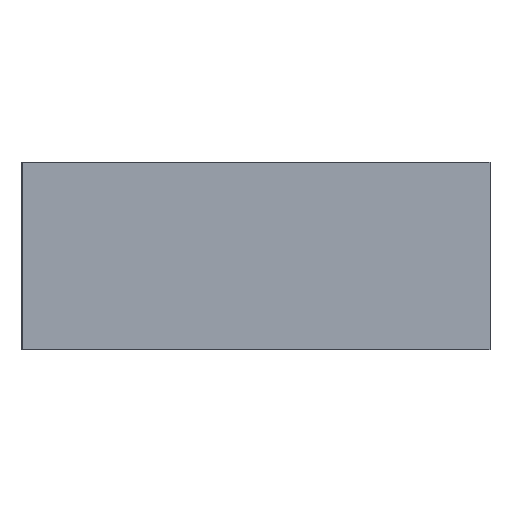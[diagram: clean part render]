
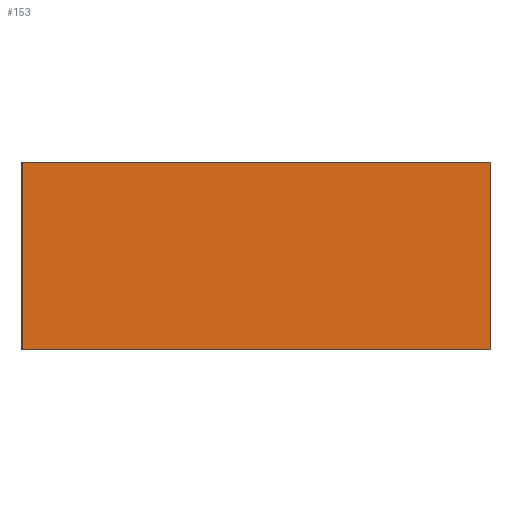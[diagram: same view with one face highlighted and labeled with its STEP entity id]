
A CAD part, left-side view. The second image highlights one B-rep face of the part: STEP entity #153.
In plain terms, the highlighted planar face has unit normal (-1, 0, 0).
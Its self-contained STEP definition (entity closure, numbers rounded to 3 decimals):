
#1 = ORIENTED_EDGE ( 'NONE', *, *, #227, .F. ) ;
#15 = VECTOR ( 'NONE', #233, 1000. ) ;
#39 = VERTEX_POINT ( 'NONE', #129 ) ;
#49 = CARTESIAN_POINT ( 'NONE',  ( -50., -10., 8. ) ) ;
#50 = VECTOR ( 'NONE', #360, 1000. ) ;
#54 = DIRECTION ( 'NONE',  ( 0., -1., 0. ) ) ;
#81 = VECTOR ( 'NONE', #54, 1000. ) ;
#104 = DIRECTION ( 'NONE',  ( 0., 0., -1. ) ) ;
#105 = DIRECTION ( 'NONE',  ( 0., 0., -1. ) ) ;
#106 = VECTOR ( 'NONE', #104, 1000. ) ;
#116 = LINE ( 'NONE', #293, #50 ) ;
#123 = EDGE_LOOP ( 'NONE', ( #278, #338, #1, #373 ) ) ;
#129 = CARTESIAN_POINT ( 'NONE',  ( -50., -10., 0. ) ) ;
#145 = CARTESIAN_POINT ( 'NONE',  ( -50., 10., 0. ) ) ;
#152 = VERTEX_POINT ( 'NONE', #349 ) ;
#153 = ADVANCED_FACE ( 'NONE', ( #234 ), #173, .F. ) ;
#173 = PLANE ( 'NONE',  #385 ) ;
#227 = EDGE_CURVE ( 'NONE', #304, #152, #116, .T. ) ;
#233 = DIRECTION ( 'NONE',  ( 0., 0., -1. ) ) ;
#234 = FACE_OUTER_BOUND ( 'NONE', #123, .T. ) ;
#238 = DIRECTION ( 'NONE',  ( 1., 0., 0. ) ) ;
#248 = CARTESIAN_POINT ( 'NONE',  ( -50., -10., 0. ) ) ;
#278 = ORIENTED_EDGE ( 'NONE', *, *, #367, .T. ) ;
#287 = EDGE_CURVE ( 'NONE', #152, #39, #379, .T. ) ;
#293 = CARTESIAN_POINT ( 'NONE',  ( -50., -10., 8. ) ) ;
#301 = EDGE_CURVE ( 'NONE', #304, #348, #350, .T. ) ;
#304 = VERTEX_POINT ( 'NONE', #323 ) ;
#311 = LINE ( 'NONE', #248, #81 ) ;
#320 = CARTESIAN_POINT ( 'NONE',  ( -50., 10., 8. ) ) ;
#323 = CARTESIAN_POINT ( 'NONE',  ( -50., 10., 8. ) ) ;
#338 = ORIENTED_EDGE ( 'NONE', *, *, #287, .F. ) ;
#348 = VERTEX_POINT ( 'NONE', #145 ) ;
#349 = CARTESIAN_POINT ( 'NONE',  ( -50., -10., 8. ) ) ;
#350 = LINE ( 'NONE', #320, #15 ) ;
#360 = DIRECTION ( 'NONE',  ( 0., -1., 0. ) ) ;
#367 = EDGE_CURVE ( 'NONE', #348, #39, #311, .T. ) ;
#373 = ORIENTED_EDGE ( 'NONE', *, *, #301, .T. ) ;
#379 = LINE ( 'NONE', #382, #106 ) ;
#382 = CARTESIAN_POINT ( 'NONE',  ( -50., -10., 8. ) ) ;
#385 = AXIS2_PLACEMENT_3D ( 'NONE', #49, #238, #105 ) ;
